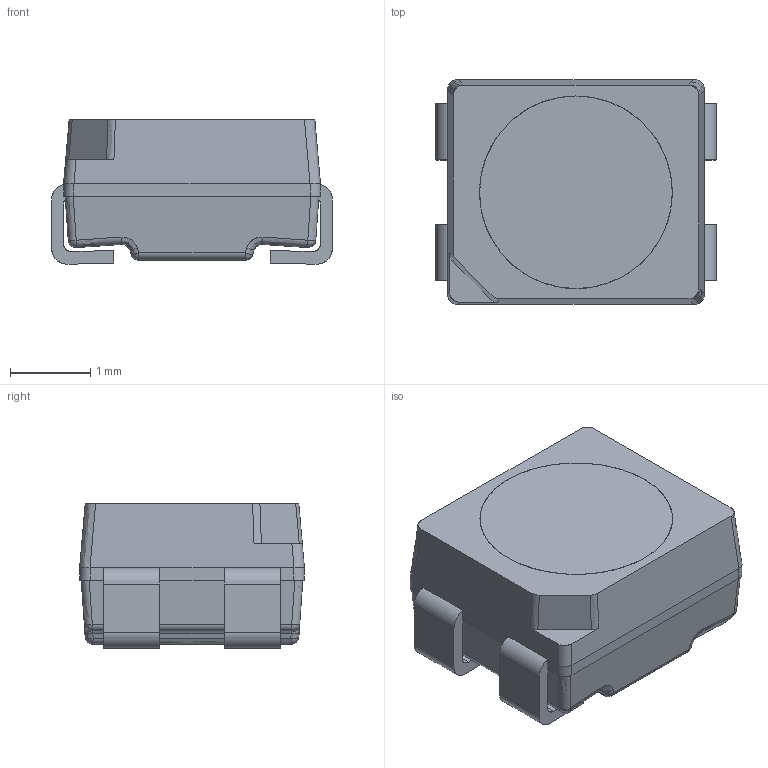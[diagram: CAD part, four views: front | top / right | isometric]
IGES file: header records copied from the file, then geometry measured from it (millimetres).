
Start section: SolidWorks IGES file using analytic representation for surfaces
Global section: file name: C:\Users\user\Desktop\XYY\1-车灯产品3D图汇总\3528\LWB-OK\光学模型\LWB.IGS; native system: SolidWorks 2022; preprocessor: SolidWorks 2022; author: user; date: 250323.160736; units: millimetre
Bounding box: 3.5 x 2.8 x 1.8 mm (x, y, z)
Surface area: 72.9 mm2 (no closed solid volume)
Topology: 0 solids, 0 shells, 393 faces, 11816 edges, 12907 vertices
Faces by surface type: revolution 199, bspline 194
